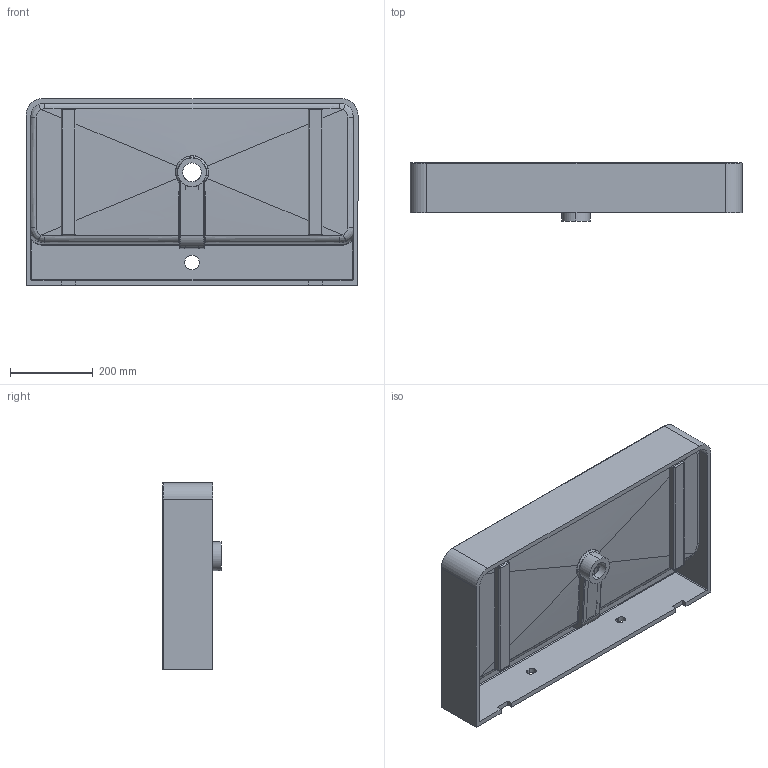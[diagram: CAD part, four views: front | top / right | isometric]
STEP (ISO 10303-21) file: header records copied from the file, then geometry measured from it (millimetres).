
FILE_DESCRIPTION (( 'STEP AP203' ), '1' );
FILE_NAME ('AK800.STEP', '2016-03-26T14:31:17', ( '旮僅薊襠http://www.deepbbs.org' ), ( 'http://www.deepbbs.org' ), 'SwSTEP 2.0', 'SolidWorks 2014', '' );
FILE_SCHEMA (( 'CONFIG_CONTROL_DESIGN' ));
Length unit declared in the file: millimetre
Products named in the file (1): AK800
Bounding box: 800 x 140 x 450 mm (x, y, z)
Volume: 9240557.5 mm3; surface area: 1449043.9 mm2
Topology: 1 solids, 1 shells, 200 faces, 534 edges, 322 vertices
Faces by surface type: cylinder 67, bspline 57, plane 56, sphere 10, torus 6, cone 4
Entity records: 12116 total; most frequent: CARTESIAN_POINT 7678, ORIENTED_EDGE 1046, DIRECTION 740, EDGE_CURVE 523, VERTEX_POINT 322, AXIS2_PLACEMENT_3D 274, EDGE_LOOP 209, FACE_OUTER_BOUND 200
